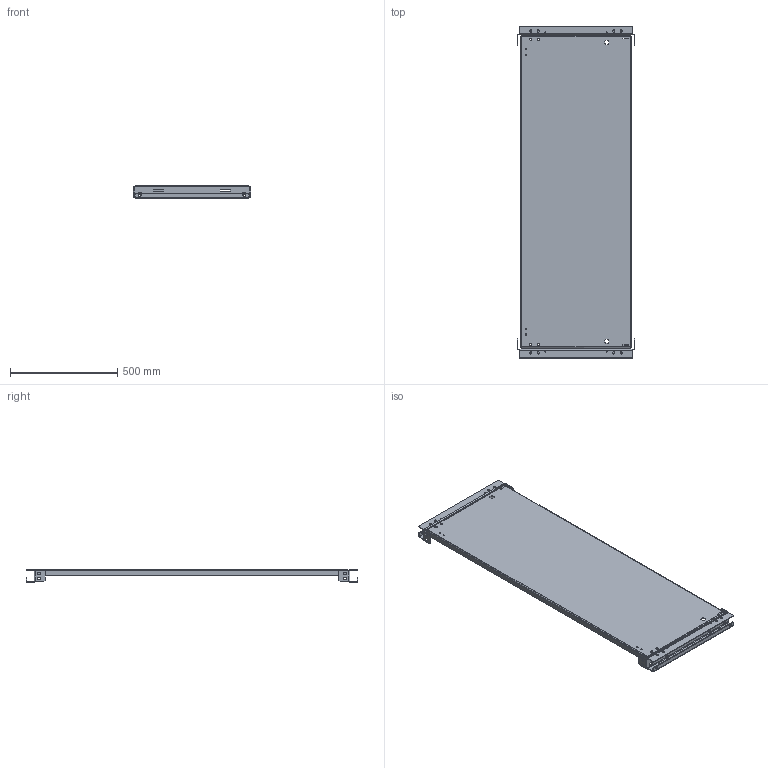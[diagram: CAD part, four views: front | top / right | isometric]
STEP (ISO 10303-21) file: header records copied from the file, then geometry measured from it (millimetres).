
FILE_DESCRIPTION (( 'STEP AP203' ), '1' );
FILE_NAME ('p2pso166g.STEP', '2016-06-09T18:43:09', ( '' ), ( '' ), 'SwSTEP 2.0', 'SolidWorks 2014', '' );
FILE_SCHEMA (( 'CONFIG_CONTROL_DESIGN' ));
Length unit declared in the file: millimetre
Products named in the file (3): 89138199; 89131518; p2pso166g
Assembly tree (3 placements, depth 2):
  p2pso166g
    89138199
    89131518  x2
Bounding box: 547.29 x 1545.09 x 60.15 mm (x, y, z)
Volume: 2587954 mm3; surface area: 2026416.1 mm2
Topology: 3 solids, 3 shells, 346 faces, 938 edges, 604 vertices
Faces by surface type: plane 206, cylinder 132, bspline 8
Entity records: 8251 total; most frequent: CARTESIAN_POINT 1812, ORIENTED_EDGE 1260, DIRECTION 1238, EDGE_CURVE 630, VECTOR 458, LINE 458, VERTEX_POINT 404, AXIS2_PLACEMENT_3D 390
